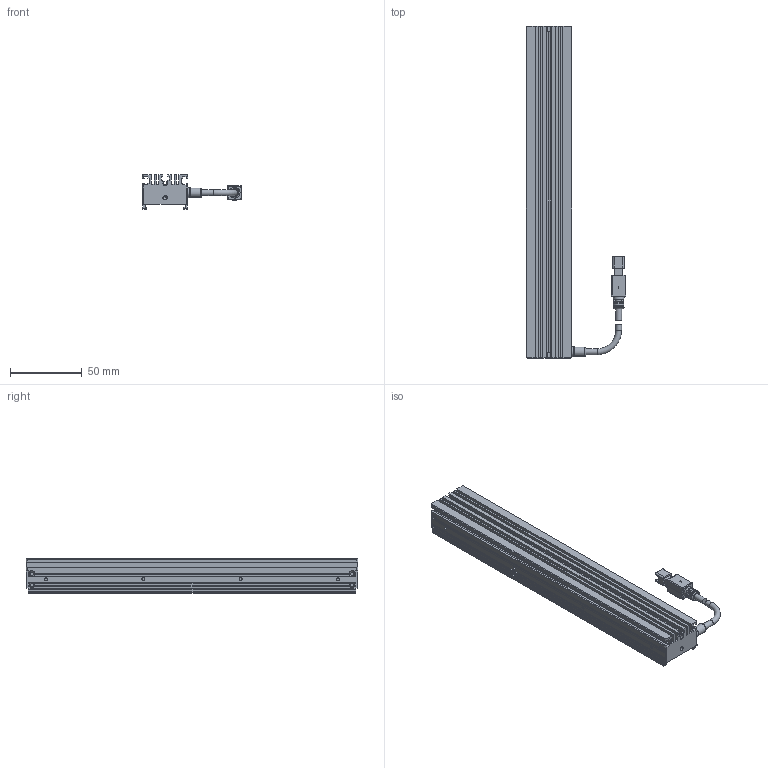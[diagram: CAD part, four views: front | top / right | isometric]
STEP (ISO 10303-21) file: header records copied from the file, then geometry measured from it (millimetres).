
FILE_DESCRIPTION (( 'STEP AP203' ), '1' );
FILE_NAME ('OPT-ULI23232-UV-V1.0尨砩芞.STEP', '2024-12-10T10:58:46', ( '' ), ( '' ), 'SwSTEP 2.0', 'SolidWorks 2016', '' );
FILE_SCHEMA (( 'CONFIG_CONTROL_DESIGN' ));
Length unit declared in the file: millimetre
Products named in the file (1): OPT-ULI23232-UV-V1.0尨砩芞
Bounding box: 69.6 x 232 x 24 mm (x, y, z)
Volume: 128252.6 mm3; surface area: 58948 mm2
Topology: 6 solids, 14 shells, 604 faces, 1560 edges, 999 vertices
Faces by surface type: plane 408, cylinder 139, cone 28, bspline 21, torus 8
Full cylindrical faces by diameter (mm): 1.1 x2, 1.4 x2, 1.6 x7, 2 x15, 2.4 x7, 2.5 x2, 3 x2, 3.5 x1, 4.1 x4, 6.5 x1, 7 x1, 7.5 x1
Entity records: 18449 total; most frequent: CARTESIAN_POINT 4252, ORIENTED_EDGE 2908, DIRECTION 2817, EDGE_CURVE 1454, LINE 1003, VECTOR 1003, VERTEX_POINT 970, AXIS2_PLACEMENT_3D 907
